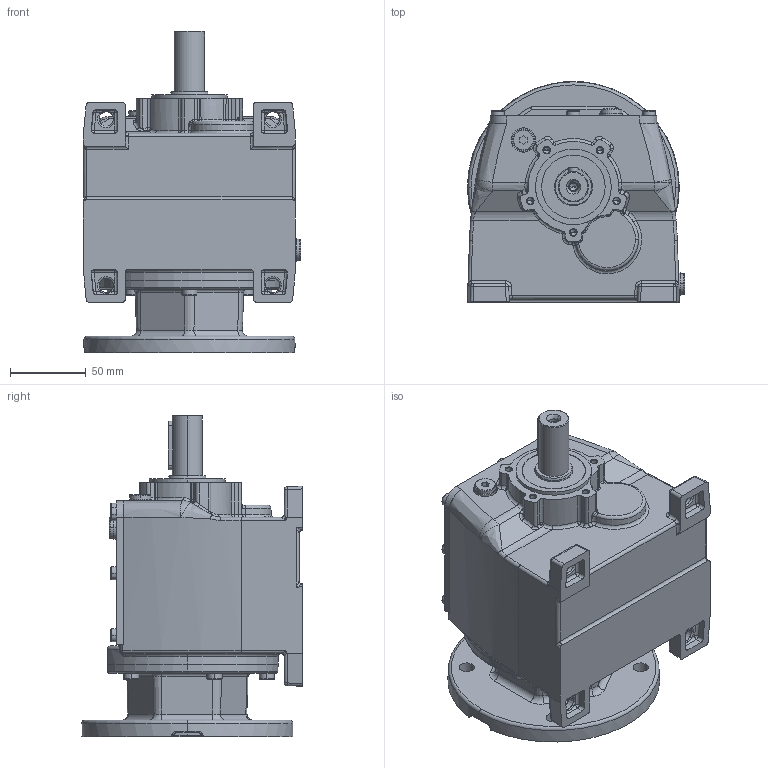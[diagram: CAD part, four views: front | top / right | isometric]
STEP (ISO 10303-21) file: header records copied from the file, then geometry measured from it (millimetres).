
FILE_DESCRIPTION (( 'STEP AP214' ), '1' );
FILE_NAME ('MTC22A-90-115.STEP', '2006-05-03T10:09:26', ( '' ), ( '' ), 'SwSTEP 2.0', 'SolidWorks 2004146', '' );
FILE_SCHEMA (( 'AUTOMOTIVE_DESIGN' ));
Length unit declared in the file: millimetre
Products named in the file (4): pøíruba d55 MRT60a_pøíruba 95-115-140; D6912_Šroub DIN 6912 - M6x20; Skrin MTC2_A_MTC22_AP90; MTC22A-90-115
Assembly tree (8 placements, depth 2):
  MTC22A-90-115
    pøíruba d55 MRT60a_pøíruba 95-115-140
    Skrin MTC2_A_MTC22_AP90
    D6912_Šroub DIN 6912 - M6x20  x6
Bounding box: 143.57 x 145.76 x 212.5 mm (x, y, z)
Volume: 1958270.1 mm3; surface area: 162095.8 mm2
Topology: 8 solids, 8 shells, 1424 faces, 3308 edges, 1918 vertices
Faces by surface type: plane 361, torus 347, cylinder 327, cone 209, bspline 154, sphere 26
Entity records: 124771 total; most frequent: CARTESIAN_POINT 93362, DIRECTION 6167, ORIENTED_EDGE 5860, EDGE_CURVE 2930, AXIS2_PLACEMENT_3D 2590, VERTEX_POINT 1760, CIRCLE 1494, EDGE_LOOP 1332
